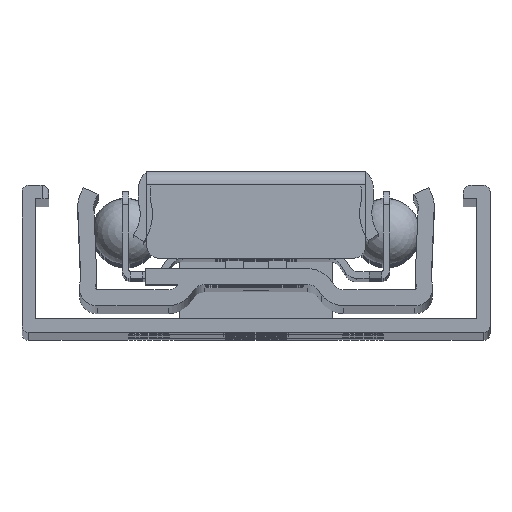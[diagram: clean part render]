
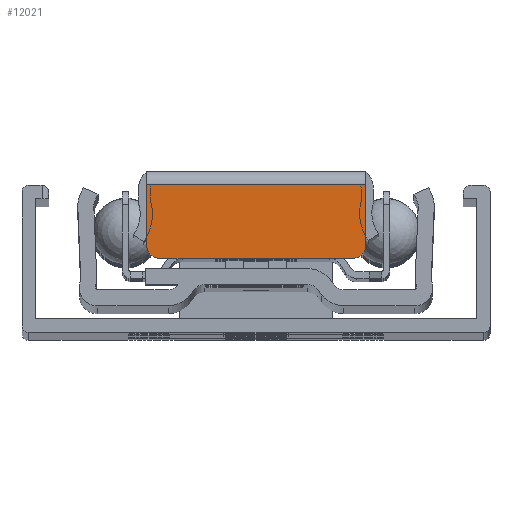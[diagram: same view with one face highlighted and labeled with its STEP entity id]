
A CAD part, top view. The second image highlights one B-rep face of the part: STEP entity #12021.
In plain terms, the highlighted planar face has unit normal (0, 0, 1).
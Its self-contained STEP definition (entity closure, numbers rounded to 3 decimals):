
#651=PLANE('',#13222);
#1242=FACE_OUTER_BOUND('',#1968,.T.);
#1968=EDGE_LOOP('',(#11042,#11043,#11044,#11045,#11046,#11047));
#3139=LINE('',#20493,#4314);
#3140=LINE('',#20496,#4315);
#3141=LINE('',#20500,#4316);
#3142=LINE('',#20503,#4317);
#4314=VECTOR('',#16660,10.);
#4315=VECTOR('',#16663,10.);
#4316=VECTOR('',#16666,10.);
#4317=VECTOR('',#16669,10.);
#4898=CIRCLE('',#13223,1.);
#4899=CIRCLE('',#13224,1.);
#6020=VERTEX_POINT('',#20489);
#6021=VERTEX_POINT('',#20491);
#6022=VERTEX_POINT('',#20495);
#6023=VERTEX_POINT('',#20497);
#6024=VERTEX_POINT('',#20499);
#6025=VERTEX_POINT('',#20501);
#7713=EDGE_CURVE('',#6021,#6020,#3139,.T.);
#7714=EDGE_CURVE('',#6021,#6022,#3140,.T.);
#7715=EDGE_CURVE('',#6023,#6022,#4898,.T.);
#7716=EDGE_CURVE('',#6023,#6024,#3141,.T.);
#7717=EDGE_CURVE('',#6025,#6024,#4899,.T.);
#7718=EDGE_CURVE('',#6020,#6025,#3142,.T.);
#11042=ORIENTED_EDGE('',*,*,#7713,.F.);
#11043=ORIENTED_EDGE('',*,*,#7714,.T.);
#11044=ORIENTED_EDGE('',*,*,#7715,.F.);
#11045=ORIENTED_EDGE('',*,*,#7716,.T.);
#11046=ORIENTED_EDGE('',*,*,#7717,.F.);
#11047=ORIENTED_EDGE('',*,*,#7718,.F.);
#12021=ADVANCED_FACE('',(#1242),#651,.T.);
#13222=AXIS2_PLACEMENT_3D('',#20494,#16661,#16662);
#13223=AXIS2_PLACEMENT_3D('',#20498,#16664,#16665);
#13224=AXIS2_PLACEMENT_3D('',#20502,#16667,#16668);
#16660=DIRECTION('',(-1.,0.,0.));
#16661=DIRECTION('center_axis',(0.,0.,1.));
#16662=DIRECTION('ref_axis',(1.,0.,0.));
#16663=DIRECTION('',(0.,1.,0.));
#16664=DIRECTION('center_axis',(0.,0.,-1.));
#16665=DIRECTION('ref_axis',(0.707,0.707,0.));
#16666=DIRECTION('',(-1.,0.,0.));
#16667=DIRECTION('center_axis',(0.,0.,-1.));
#16668=DIRECTION('ref_axis',(-0.707,0.707,0.));
#16669=DIRECTION('',(0.,1.,0.));
#20489=CARTESIAN_POINT('',(5.11,-4.766,349.));
#20491=CARTESIAN_POINT('',(21.512,-4.766,349.));
#20493=CARTESIAN_POINT('',(17.427,-4.766,349.));
#20494=CARTESIAN_POINT('Origin',(21.512,-5.766,349.));
#20495=CARTESIAN_POINT('',(21.512,-0.266,349.));
#20496=CARTESIAN_POINT('',(21.512,-5.766,349.));
#20497=CARTESIAN_POINT('',(20.512,0.734,349.));
#20498=CARTESIAN_POINT('Origin',(20.512,-0.266,349.));
#20499=CARTESIAN_POINT('',(6.11,0.734,349.));
#20500=CARTESIAN_POINT('',(21.512,0.734,349.));
#20501=CARTESIAN_POINT('',(5.11,-0.266,349.));
#20502=CARTESIAN_POINT('Origin',(6.11,-0.266,349.));
#20503=CARTESIAN_POINT('',(5.11,-5.766,349.));
